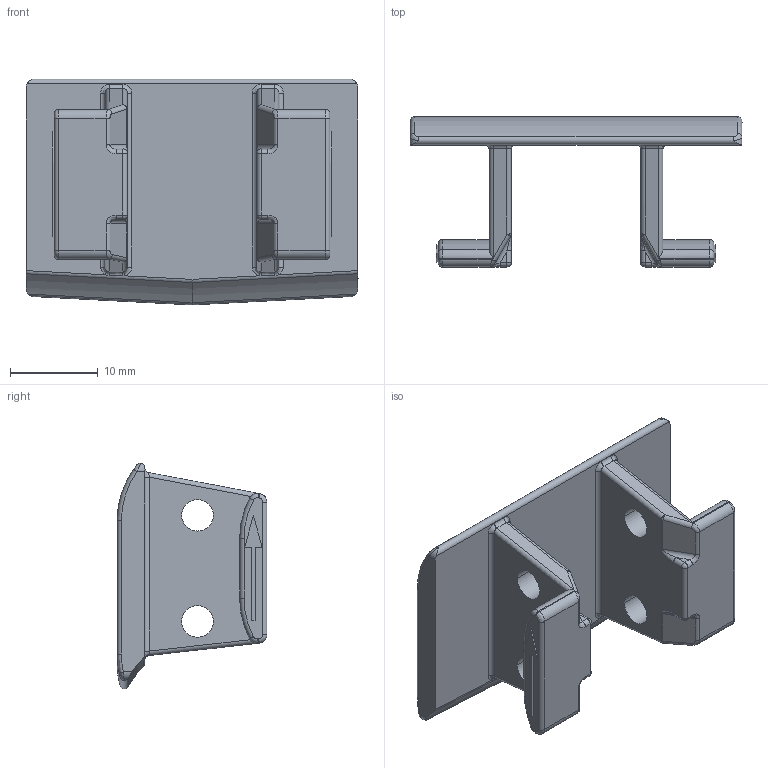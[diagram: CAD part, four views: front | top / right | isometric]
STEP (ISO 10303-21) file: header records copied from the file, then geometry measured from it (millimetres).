
FILE_DESCRIPTION((''),'2;1');
FILE_NAME('P762','2015-12-02T',('bhe'),(''),'CREO PARAMETRIC BY PTC INC, 2015290','CREO PARAMETRIC BY PTC INC, 2015290','');
FILE_SCHEMA(('CONFIG_CONTROL_DESIGN'));
Length unit declared in the file: millimetre
Products named in the file (1): P762
Bounding box: 37.86 x 17.1 x 25.75 mm (x, y, z)
Volume: 4416.9 mm3; surface area: 3677.2 mm2
Topology: 1 solids, 1 shells, 184 faces, 441 edges, 261 vertices
Faces by surface type: cylinder 84, plane 46, bspline 34, torus 12, sphere 8
Entity records: 7636 total; most frequent: CARTESIAN_POINT 3543, ORIENTED_EDGE 882, DIRECTION 801, EDGE_CURVE 441, AXIS2_PLACEMENT_3D 302, VERTEX_POINT 261, VECTOR 197, LINE 197
